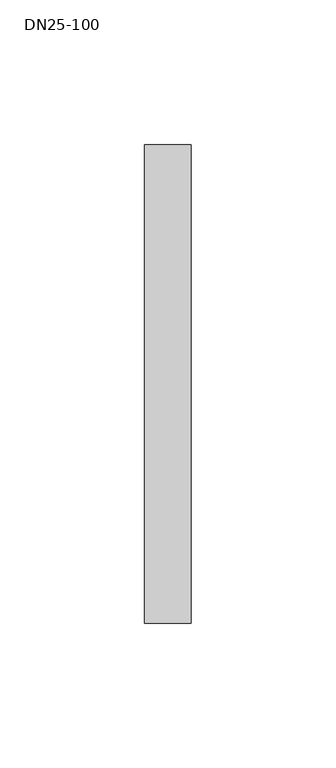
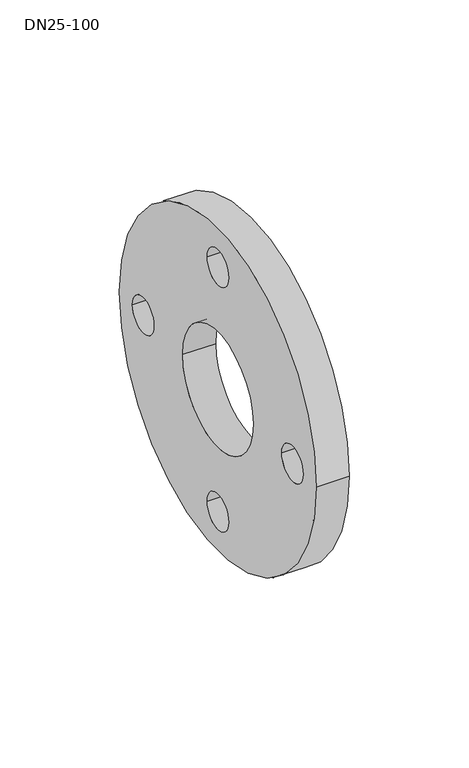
"""IFC4 building model written with IfcOpenShell, lengths in millimetres: pipe fitting geometry, NLRS_50_PIF_UN_Mapress losse flens PN 10_16_geb : DN25-100."""

from ifc_helpers import new_model, si_unit, point, frame, frame_2d, origin, origin_2d, place, context, project, spatial, circle_curve, trimmed, segment, composite_curve, outline, extrude, source, transform, mapped, element, save


def dn25_100_a48f3478(model_context):
    return source(origin(), model_context, "Body", "SweptSolid", [
        extrude(outline(composite_curve([segment(trimmed(circle_curve(origin_2d(), 82.5), [point((-82.5, 0.0))], [point((82.5, 0.0))], False, "CARTESIAN"), True, "CONTINUOUS"), segment(trimmed(circle_curve(origin_2d(), 82.5), [point((82.5, 0.0))], [point((-82.5, 0.0))], False, "CARTESIAN"), True, "CONTINUOUS")], self_intersect=False), holes=[composite_curve([segment(trimmed(circle_curve(frame_2d((0.0, -62.5)), 9.0), [point((-9.0, -62.5))], [point((9.0, -62.5))], True, "CARTESIAN"), True, "CONTINUOUS"), segment(trimmed(circle_curve(frame_2d((0.0, -62.5)), 9.0), [point((9.0, -62.5))], [point((-9.0, -62.5))], True, "CARTESIAN"), True, "CONTINUOUS")], self_intersect=False), composite_curve([segment(trimmed(circle_curve(frame_2d((0.0, 62.5)), 9.0), [point((-9.0, 62.5))], [point((9.0, 62.5))], True, "CARTESIAN"), True, "CONTINUOUS"), segment(trimmed(circle_curve(frame_2d((0.0, 62.5)), 9.0), [point((9.0, 62.5))], [point((-9.0, 62.5))], True, "CARTESIAN"), True, "CONTINUOUS")], self_intersect=False), composite_curve([segment(trimmed(circle_curve(origin_2d(), 29.5), [point((-29.5, 0.0))], [point((29.5, 0.0))], True, "CARTESIAN"), True, "CONTINUOUS"), segment(trimmed(circle_curve(origin_2d(), 29.5), [point((29.5, 0.0))], [point((-29.5, 0.0))], True, "CARTESIAN"), True, "CONTINUOUS")], self_intersect=False), composite_curve([segment(trimmed(circle_curve(frame_2d((62.5, 0.0)), 9.0), [point((53.5, 0.0))], [point((71.5, 0.0))], True, "CARTESIAN"), True, "CONTINUOUS"), segment(trimmed(circle_curve(frame_2d((62.5, 0.0)), 9.0), [point((71.5, 0.0))], [point((53.5, 0.0))], True, "CARTESIAN"), True, "CONTINUOUS")], self_intersect=False), composite_curve([segment(trimmed(circle_curve(frame_2d((-62.5, 0.0)), 9.0), [point((-71.5, 0.0))], [point((-53.5, 0.0))], True, "CARTESIAN"), True, "CONTINUOUS"), segment(trimmed(circle_curve(frame_2d((-62.5, 0.0)), 9.0), [point((-53.5, 0.0))], [point((-71.5, 0.0))], True, "CARTESIAN"), True, "CONTINUOUS")], self_intersect=False)]), frame((-8.0, 0.0, 0.0), z_axis=(1.0, 0.0, 0.0), x_axis=(0.0, 1.0, 0.0)), (0.0, 0.0, 1.0), 16.0),
    ])


if __name__ == "__main__":
    model = new_model("IFC4")
    model_context = context("Model", 3, world=origin())
    ifc_project = project(units=[si_unit("LENGTHUNIT", "METRE", prefix="MILLI")], contexts=[model_context])
    site = spatial("IfcSite", under=ifc_project)
    building = spatial("IfcBuilding", under=site)
    placement = place(None, origin())
    dn25_100_shape = dn25_100_a48f3478(model_context)
    element("IfcPipeFitting", 1, ObjectType="NLRS_50_PIF_UN_Mapress losse flens PN 10_16_geb : DN25-100", at=placement, inside=building, context=model_context, shape_type="MappedRepresentation", body=[
        mapped(dn25_100_shape, transform((0.0, 0.0, 0.0), x_axis=(1.0, 0.0, 0.0), y_axis=(0.0, 1.0, 0.0), z_axis=(0.0, 0.0, 1.0))),
    ])
    save(model, "model.ifc")
